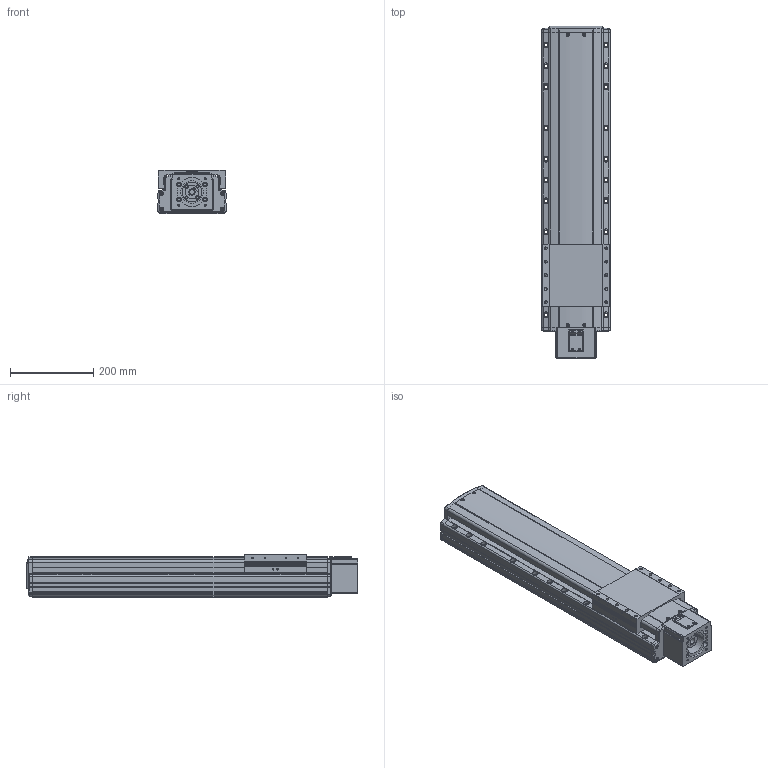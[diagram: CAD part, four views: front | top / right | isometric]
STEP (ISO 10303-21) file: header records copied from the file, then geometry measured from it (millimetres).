
FILE_DESCRIPTION(('STEP AP214'),'1');
FILE_NAME('Z:/Web/3D/PSA165/STP/PSA165-450 (3D)/PSA165ㅁㅁ-450S.stp','2014-06-23T11:17:31',(' '),(' '),'Spatial InterOp 3D',' ',' ');
FILE_SCHEMA(('automotive_design'));
Length unit declared in the file: millimetre
Products named in the file (67): 스크루 : Round - M4.0 x 12.0; RRCV-PA160; BASE; 스크루 : Round - M4.0 x 10.0; RN15; Screw 20; SLIDE; FRCV; 스크루 : Socket - M6.0 x 25.0; MTHZ-SAN150-80A; SSFX-SAN65; CPLCV-SAN65; 스크루 : Round - M3.0 x 6.0; SDWA47C(2); SDWA47C(3-1); SDWA47C(3); SDWA47C(1); SDWA47C(4); SDWA47C(5)
Bounding box: 165 x 799.8 x 104 mm (x, y, z)
Volume: 10645579.1 mm3; surface area: 806973.7 mm2
Topology: 67 solids, 67 shells, 2968 faces, 7907 edges, 5085 vertices
Faces by surface type: plane 1380, cylinder 1126, cone 353, sphere 50, bspline 35, torus 24
Entity records: 121899 total; most frequent: CARTESIAN_POINT 21405, DIRECTION 16459, ORIENTED_EDGE 15518, EDGE_CURVE 7759, AXIS2_PLACEMENT_3D 5949, VERTEX_POINT 5085, LINE 4561, VECTOR 4561
